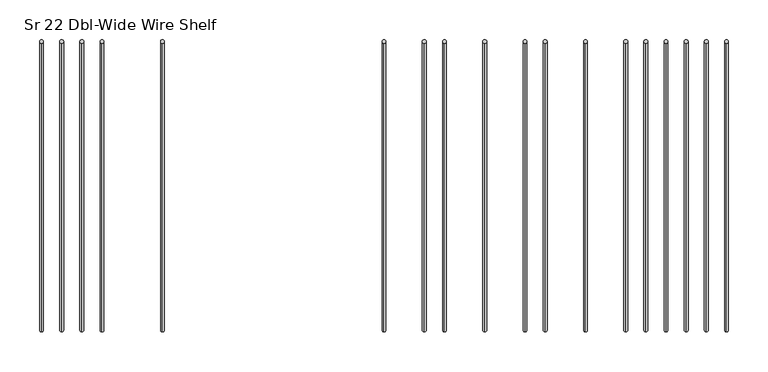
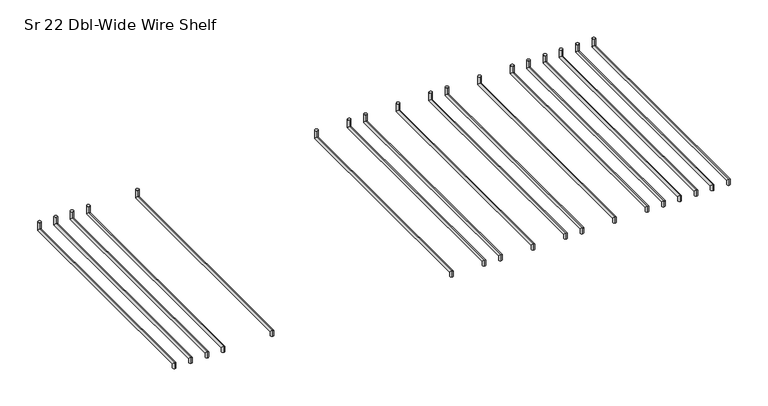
"""IFC4 building model written with IfcOpenShell, lengths in millimetres: furniture geometry, HermanMiller_Carts_CT521_CartShelf : Sr 22 Dbl-Wide Wire Shelf."""

from ifc_helpers import new_model, si_unit, frame, origin, place, context, project, spatial, circle_curve, ellipse_curve, source, transform, mapped, element, save
from ifc_brep_helpers import plane_surface, cylinder_surface, advanced_brep


def sr_22_dbl_wide_wire_shelf_6467912a(model_context):
    return source(origin(), model_context, "Body", "AdvancedBrep", [
        advanced_brep(
        [(561.7223083, -206.38135, 2453.2971), (561.7223083, -211.14385, 2453.2971), (561.7223083, -206.38135, 2458.0596), (561.7223083, -211.14385, 2462.8221), (561.7223083, 157.2983379, 2458.0596), (561.7223083, 152.5358379, 2462.8221), (561.7223083, 157.2983379, 2473.3377), (561.7223083, 152.5358379, 2473.3377)],
        [
            (0, 1, circle_curve(frame((561.7223083, -208.7626, 2453.2971), z_axis=(0.0, 0.0, -1.0), x_axis=(0.0, -1.0, 0.0)), 2.38125)),
            (1, 0, circle_curve(frame((561.7223083, -208.7626, 2453.2971), z_axis=(0.0, 0.0, -1.0), x_axis=(0.0, -1.0, 0.0)), 2.38125)),
            (0, 2),
            (2, 3, ellipse_curve(frame((561.7223083, -208.7626, 2460.44085), z_axis=(0.0, -0.7071067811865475, -0.7071067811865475), x_axis=(0.0, 0.7071067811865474, -0.7071067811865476)), 3.367596, 2.38125)),
            (3, 1),
            (3, 2, ellipse_curve(frame((561.7223083, -208.7626, 2460.44085), z_axis=(0.0, -0.7071067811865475, -0.7071067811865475), x_axis=(0.0, 0.7071067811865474, -0.7071067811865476)), 3.367596, 2.38125)),
            (2, 4),
            (4, 5, ellipse_curve(frame((561.7223083, 154.9170879, 2460.44085), z_axis=(0.0, -0.7071067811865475, -0.7071067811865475), x_axis=(0.0, -0.7071067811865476, 0.7071067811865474)), 3.367596, 2.38125)),
            (5, 3),
            (5, 4, ellipse_curve(frame((561.7223083, 154.9170879, 2460.44085), z_axis=(0.0, -0.7071067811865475, -0.7071067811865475), x_axis=(0.0, -0.7071067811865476, 0.7071067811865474)), 3.367596, 2.38125)),
            (6, 7, circle_curve(frame((561.7223083, 154.9170879, 2473.3377), z_axis=(0.0, 0.0, 1.0), x_axis=(0.0, -1.0, 0.0)), 2.38125)),
            (7, 6, circle_curve(frame((561.7223083, 154.9170879, 2473.3377), z_axis=(0.0, 0.0, 1.0), x_axis=(0.0, -1.0, 0.0)), 2.38125)),
            (4, 6),
            (7, 5),
        ],
        [
            plane_surface(frame((561.7223083, -208.7626, 2453.2971), z_axis=(0.0, 0.0, -1.0), x_axis=(1.0, 0.0, 0.0))),
            cylinder_surface(frame((561.7223083, -208.7626, 2453.2971), z_axis=(0.0, 0.0, -1.0), x_axis=(0.0, -1.0, 0.0)), 2.38125),
            cylinder_surface(frame((561.7223083, -208.7626, 2460.44085), z_axis=(0.0, -1.0, 0.0), x_axis=(0.0, 0.0, 1.0)), 2.38125),
            plane_surface(frame((561.7223083, 154.9170879, 2473.3377), z_axis=(0.0, 0.0, 1.0), x_axis=(1.0, 0.0, 0.0))),
            cylinder_surface(frame((561.7223083, 154.9170879, 2460.44085), z_axis=(0.0, 0.0, -1.0), x_axis=(0.0, -1.0, 0.0)), 2.38125),
        ],
        [
            (0, [[1, 2]]),
            (1, [[-1, 3, 4, 5]]),
            (1, [[-2, -5, 6, -3]]),
            (2, [[-4, 7, 8, 9]]),
            (2, [[-6, -9, 10, -7]]),
            (3, [[11, 12]]),
            (4, [[-8, 13, -12, 14]]),
            (4, [[-10, -14, -11, -13]]),
        ],
    ),
        advanced_brep(
        [(637.9223083, -206.38135, 2453.2971), (637.9223083, -211.14385, 2453.2971), (637.9223083, -206.38135, 2458.0596), (637.9223083, -211.14385, 2462.8221), (637.9223083, 157.2983379, 2458.0596), (637.9223083, 152.5358379, 2462.8221), (637.9223083, 157.2983379, 2473.3377), (637.9223083, 152.5358379, 2473.3377)],
        [
            (0, 1, circle_curve(frame((637.9223083, -208.7626, 2453.2971), z_axis=(0.0, 0.0, -1.0), x_axis=(0.0, -1.0, 0.0)), 2.38125)),
            (1, 0, circle_curve(frame((637.9223083, -208.7626, 2453.2971), z_axis=(0.0, 0.0, -1.0), x_axis=(0.0, -1.0, 0.0)), 2.38125)),
            (0, 2),
            (2, 3, ellipse_curve(frame((637.9223083, -208.7626, 2460.44085), z_axis=(0.0, -0.7071067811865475, -0.7071067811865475), x_axis=(0.0, 0.7071067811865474, -0.7071067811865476)), 3.367596, 2.38125)),
            (3, 1),
            (3, 2, ellipse_curve(frame((637.9223083, -208.7626, 2460.44085), z_axis=(0.0, -0.7071067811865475, -0.7071067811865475), x_axis=(0.0, 0.7071067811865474, -0.7071067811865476)), 3.367596, 2.38125)),
            (2, 4),
            (4, 5, ellipse_curve(frame((637.9223083, 154.9170879, 2460.44085), z_axis=(0.0, -0.7071067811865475, -0.7071067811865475), x_axis=(0.0, -0.7071067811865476, 0.7071067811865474)), 3.367596, 2.38125)),
            (5, 3),
            (5, 4, ellipse_curve(frame((637.9223083, 154.9170879, 2460.44085), z_axis=(0.0, -0.7071067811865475, -0.7071067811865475), x_axis=(0.0, -0.7071067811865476, 0.7071067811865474)), 3.367596, 2.38125)),
            (6, 7, circle_curve(frame((637.9223083, 154.9170879, 2473.3377), z_axis=(0.0, 0.0, 1.0), x_axis=(0.0, -1.0, 0.0)), 2.38125)),
            (7, 6, circle_curve(frame((637.9223083, 154.9170879, 2473.3377), z_axis=(0.0, 0.0, 1.0), x_axis=(0.0, -1.0, 0.0)), 2.38125)),
            (4, 6),
            (7, 5),
        ],
        [
            plane_surface(frame((637.9223083, -208.7626, 2453.2971), z_axis=(0.0, 0.0, -1.0), x_axis=(1.0, 0.0, 0.0))),
            cylinder_surface(frame((637.9223083, -208.7626, 2453.2971), z_axis=(0.0, 0.0, -1.0), x_axis=(0.0, -1.0, 0.0)), 2.38125),
            cylinder_surface(frame((637.9223083, -208.7626, 2460.44085), z_axis=(0.0, -1.0, 0.0), x_axis=(0.0, 0.0, 1.0)), 2.38125),
            plane_surface(frame((637.9223083, 154.9170879, 2473.3377), z_axis=(0.0, 0.0, 1.0), x_axis=(1.0, 0.0, 0.0))),
            cylinder_surface(frame((637.9223083, 154.9170879, 2460.44085), z_axis=(0.0, 0.0, -1.0), x_axis=(0.0, -1.0, 0.0)), 2.38125),
        ],
        [
            (0, [[1, 2]]),
            (1, [[-1, 3, 4, 5]]),
            (1, [[-2, -5, 6, -3]]),
            (2, [[-4, 7, 8, 9]]),
            (2, [[-6, -9, 10, -7]]),
            (3, [[11, 12]]),
            (4, [[-8, 13, -12, 14]]),
            (4, [[-10, -14, -11, -13]]),
        ],
    ),
        advanced_brep(
        [(688.7223083, -206.38135, 2453.2971), (688.7223083, -211.14385, 2453.2971), (688.7223083, -206.38135, 2458.0596), (688.7223083, -211.14385, 2462.8221), (688.7223083, 157.2983379, 2458.0596), (688.7223083, 152.5358379, 2462.8221), (688.7223083, 157.2983379, 2473.3377), (688.7223083, 152.5358379, 2473.3377)],
        [
            (0, 1, circle_curve(frame((688.7223083, -208.7626, 2453.2971), z_axis=(0.0, 0.0, -1.0), x_axis=(0.0, -1.0, 0.0)), 2.38125)),
            (1, 0, circle_curve(frame((688.7223083, -208.7626, 2453.2971), z_axis=(0.0, 0.0, -1.0), x_axis=(0.0, -1.0, 0.0)), 2.38125)),
            (0, 2),
            (2, 3, ellipse_curve(frame((688.7223083, -208.7626, 2460.44085), z_axis=(0.0, -0.7071067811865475, -0.7071067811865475), x_axis=(0.0, 0.7071067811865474, -0.7071067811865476)), 3.367596, 2.38125)),
            (3, 1),
            (3, 2, ellipse_curve(frame((688.7223083, -208.7626, 2460.44085), z_axis=(0.0, -0.7071067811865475, -0.7071067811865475), x_axis=(0.0, 0.7071067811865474, -0.7071067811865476)), 3.367596, 2.38125)),
            (2, 4),
            (4, 5, ellipse_curve(frame((688.7223083, 154.9170879, 2460.44085), z_axis=(0.0, -0.7071067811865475, -0.7071067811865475), x_axis=(0.0, -0.7071067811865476, 0.7071067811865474)), 3.367596, 2.38125)),
            (5, 3),
            (5, 4, ellipse_curve(frame((688.7223083, 154.9170879, 2460.44085), z_axis=(0.0, -0.7071067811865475, -0.7071067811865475), x_axis=(0.0, -0.7071067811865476, 0.7071067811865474)), 3.367596, 2.38125)),
            (6, 7, circle_curve(frame((688.7223083, 154.9170879, 2473.3377), z_axis=(0.0, 0.0, 1.0), x_axis=(0.0, -1.0, 0.0)), 2.38125)),
            (7, 6, circle_curve(frame((688.7223083, 154.9170879, 2473.3377), z_axis=(0.0, 0.0, 1.0), x_axis=(0.0, -1.0, 0.0)), 2.38125)),
            (4, 6),
            (7, 5),
        ],
        [
            plane_surface(frame((688.7223083, -208.7626, 2453.2971), z_axis=(0.0, 0.0, -1.0), x_axis=(1.0, 0.0, 0.0))),
            cylinder_surface(frame((688.7223083, -208.7626, 2453.2971), z_axis=(0.0, 0.0, -1.0), x_axis=(0.0, -1.0, 0.0)), 2.38125),
            cylinder_surface(frame((688.7223083, -208.7626, 2460.44085), z_axis=(0.0, -1.0, 0.0), x_axis=(0.0, 0.0, 1.0)), 2.38125),
            plane_surface(frame((688.7223083, 154.9170879, 2473.3377), z_axis=(0.0, 0.0, 1.0), x_axis=(1.0, 0.0, 0.0))),
            cylinder_surface(frame((688.7223083, 154.9170879, 2460.44085), z_axis=(0.0, 0.0, -1.0), x_axis=(0.0, -1.0, 0.0)), 2.38125),
        ],
        [
            (0, [[1, 2]]),
            (1, [[-1, 3, 4, 5]]),
            (1, [[-2, -5, 6, -3]]),
            (2, [[-4, 7, 8, 9]]),
            (2, [[-6, -9, 10, -7]]),
            (3, [[11, 12]]),
            (4, [[-8, 13, -12, 14]]),
            (4, [[-10, -14, -11, -13]]),
        ],
    ),
        advanced_brep(
        [(663.3223083, -206.38135, 2453.2971), (663.3223083, -211.14385, 2453.2971), (663.3223083, -206.38135, 2458.0596), (663.3223083, -211.14385, 2462.8221), (663.3223083, 157.2983379, 2458.0596), (663.3223083, 152.5358379, 2462.8221), (663.3223083, 157.2983379, 2473.3377), (663.3223083, 152.5358379, 2473.3377)],
        [
            (0, 1, circle_curve(frame((663.3223083, -208.7626, 2453.2971), z_axis=(0.0, 0.0, -1.0), x_axis=(0.0, -1.0, 0.0)), 2.38125)),
            (1, 0, circle_curve(frame((663.3223083, -208.7626, 2453.2971), z_axis=(0.0, 0.0, -1.0), x_axis=(0.0, -1.0, 0.0)), 2.38125)),
            (0, 2),
            (2, 3, ellipse_curve(frame((663.3223083, -208.7626, 2460.44085), z_axis=(0.0, -0.7071067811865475, -0.7071067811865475), x_axis=(0.0, 0.7071067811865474, -0.7071067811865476)), 3.367596, 2.38125)),
            (3, 1),
            (3, 2, ellipse_curve(frame((663.3223083, -208.7626, 2460.44085), z_axis=(0.0, -0.7071067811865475, -0.7071067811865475), x_axis=(0.0, 0.7071067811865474, -0.7071067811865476)), 3.367596, 2.38125)),
            (2, 4),
            (4, 5, ellipse_curve(frame((663.3223083, 154.9170879, 2460.44085), z_axis=(0.0, -0.7071067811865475, -0.7071067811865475), x_axis=(0.0, -0.7071067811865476, 0.7071067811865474)), 3.367596, 2.38125)),
            (5, 3),
            (5, 4, ellipse_curve(frame((663.3223083, 154.9170879, 2460.44085), z_axis=(0.0, -0.7071067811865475, -0.7071067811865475), x_axis=(0.0, -0.7071067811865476, 0.7071067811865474)), 3.367596, 2.38125)),
            (6, 7, circle_curve(frame((663.3223083, 154.9170879, 2473.3377), z_axis=(0.0, 0.0, 1.0), x_axis=(0.0, -1.0, 0.0)), 2.38125)),
            (7, 6, circle_curve(frame((663.3223083, 154.9170879, 2473.3377), z_axis=(0.0, 0.0, 1.0), x_axis=(0.0, -1.0, 0.0)), 2.38125)),
            (4, 6),
            (7, 5),
        ],
        [
            plane_surface(frame((663.3223083, -208.7626, 2453.2971), z_axis=(0.0, 0.0, -1.0), x_axis=(1.0, 0.0, 0.0))),
            cylinder_surface(frame((663.3223083, -208.7626, 2453.2971), z_axis=(0.0, 0.0, -1.0), x_axis=(0.0, -1.0, 0.0)), 2.38125),
            cylinder_surface(frame((663.3223083, -208.7626, 2460.44085), z_axis=(0.0, -1.0, 0.0), x_axis=(0.0, 0.0, 1.0)), 2.38125),
            plane_surface(frame((663.3223083, 154.9170879, 2473.3377), z_axis=(0.0, 0.0, 1.0), x_axis=(1.0, 0.0, 0.0))),
            cylinder_surface(frame((663.3223083, 154.9170879, 2460.44085), z_axis=(0.0, 0.0, -1.0), x_axis=(0.0, -1.0, 0.0)), 2.38125),
        ],
        [
            (0, [[1, 2]]),
            (1, [[-1, 3, 4, 5]]),
            (1, [[-2, -5, 6, -3]]),
            (2, [[-4, 7, 8, 9]]),
            (2, [[-6, -9, 10, -7]]),
            (3, [[11, 12]]),
            (4, [[-8, 13, -12, 14]]),
            (4, [[-10, -14, -11, -13]]),
        ],
    ),
        advanced_brep(
        [(612.5223083, -206.38135, 2453.2971), (612.5223083, -211.14385, 2453.2971), (612.5223083, -206.38135, 2458.0596), (612.5223083, -211.14385, 2462.8221), (612.5223083, 157.2983379, 2458.0596), (612.5223083, 152.5358379, 2462.8221), (612.5223083, 157.2983379, 2473.3377), (612.5223083, 152.5358379, 2473.3377)],
        [
            (0, 1, circle_curve(frame((612.5223083, -208.7626, 2453.2971), z_axis=(0.0, 0.0, -1.0), x_axis=(0.0, -1.0, 0.0)), 2.38125)),
            (1, 0, circle_curve(frame((612.5223083, -208.7626, 2453.2971), z_axis=(0.0, 0.0, -1.0), x_axis=(0.0, -1.0, 0.0)), 2.38125)),
            (0, 2),
            (2, 3, ellipse_curve(frame((612.5223083, -208.7626, 2460.44085), z_axis=(0.0, -0.7071067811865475, -0.7071067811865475), x_axis=(0.0, 0.7071067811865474, -0.7071067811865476)), 3.367596, 2.38125)),
            (3, 1),
            (3, 2, ellipse_curve(frame((612.5223083, -208.7626, 2460.44085), z_axis=(0.0, -0.7071067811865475, -0.7071067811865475), x_axis=(0.0, 0.7071067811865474, -0.7071067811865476)), 3.367596, 2.38125)),
            (2, 4),
            (4, 5, ellipse_curve(frame((612.5223083, 154.9170879, 2460.44085), z_axis=(0.0, -0.7071067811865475, -0.7071067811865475), x_axis=(0.0, -0.7071067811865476, 0.7071067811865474)), 3.367596, 2.38125)),
            (5, 3),
            (5, 4, ellipse_curve(frame((612.5223083, 154.9170879, 2460.44085), z_axis=(0.0, -0.7071067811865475, -0.7071067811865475), x_axis=(0.0, -0.7071067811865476, 0.7071067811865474)), 3.367596, 2.38125)),
            (6, 7, circle_curve(frame((612.5223083, 154.9170879, 2473.3377), z_axis=(0.0, 0.0, 1.0), x_axis=(0.0, -1.0, 0.0)), 2.38125)),
            (7, 6, circle_curve(frame((612.5223083, 154.9170879, 2473.3377), z_axis=(0.0, 0.0, 1.0), x_axis=(0.0, -1.0, 0.0)), 2.38125)),
            (4, 6),
            (7, 5),
        ],
        [
            plane_surface(frame((612.5223083, -208.7626, 2453.2971), z_axis=(0.0, 0.0, -1.0), x_axis=(1.0, 0.0, 0.0))),
            cylinder_surface(frame((612.5223083, -208.7626, 2453.2971), z_axis=(0.0, 0.0, -1.0), x_axis=(0.0, -1.0, 0.0)), 2.38125),
            cylinder_surface(frame((612.5223083, -208.7626, 2460.44085), z_axis=(0.0, -1.0, 0.0), x_axis=(0.0, 0.0, 1.0)), 2.38125),
            plane_surface(frame((612.5223083, 154.9170879, 2473.3377), z_axis=(0.0, 0.0, 1.0), x_axis=(1.0, 0.0, 0.0))),
            cylinder_surface(frame((612.5223083, 154.9170879, 2460.44085), z_axis=(0.0, 0.0, -1.0), x_axis=(0.0, -1.0, 0.0)), 2.38125),
        ],
        [
            (0, [[1, 2]]),
            (1, [[-1, 3, 4, 5]]),
            (1, [[-2, -5, 6, -3]]),
            (2, [[-4, 7, 8, 9]]),
            (2, [[-6, -9, 10, -7]]),
            (3, [[11, 12]]),
            (4, [[-8, 13, -12, 14]]),
            (4, [[-10, -14, -11, -13]]),
        ],
    ),
        advanced_brep(
        [(587.1223083, -206.38135, 2453.2971), (587.1223083, -211.14385, 2453.2971), (587.1223083, -206.38135, 2458.0596), (587.1223083, -211.14385, 2462.8221), (587.1223083, 157.2983379, 2458.0596), (587.1223083, 152.5358379, 2462.8221), (587.1223083, 157.2983379, 2473.3377), (587.1223083, 152.5358379, 2473.3377)],
        [
            (0, 1, circle_curve(frame((587.1223083, -208.7626, 2453.2971), z_axis=(0.0, 0.0, -1.0), x_axis=(0.0, -1.0, 0.0)), 2.38125)),
            (1, 0, circle_curve(frame((587.1223083, -208.7626, 2453.2971), z_axis=(0.0, 0.0, -1.0), x_axis=(0.0, -1.0, 0.0)), 2.38125)),
            (0, 2),
            (2, 3, ellipse_curve(frame((587.1223083, -208.7626, 2460.44085), z_axis=(0.0, -0.7071067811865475, -0.7071067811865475), x_axis=(0.0, 0.7071067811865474, -0.7071067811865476)), 3.367596, 2.38125)),
            (3, 1),
            (3, 2, ellipse_curve(frame((587.1223083, -208.7626, 2460.44085), z_axis=(0.0, -0.7071067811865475, -0.7071067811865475), x_axis=(0.0, 0.7071067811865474, -0.7071067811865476)), 3.367596, 2.38125)),
            (2, 4),
            (4, 5, ellipse_curve(frame((587.1223083, 154.9170879, 2460.44085), z_axis=(0.0, -0.7071067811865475, -0.7071067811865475), x_axis=(0.0, -0.7071067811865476, 0.7071067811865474)), 3.367596, 2.38125)),
            (5, 3),
            (5, 4, ellipse_curve(frame((587.1223083, 154.9170879, 2460.44085), z_axis=(0.0, -0.7071067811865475, -0.7071067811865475), x_axis=(0.0, -0.7071067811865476, 0.7071067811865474)), 3.367596, 2.38125)),
            (6, 7, circle_curve(frame((587.1223083, 154.9170879, 2473.3377), z_axis=(0.0, 0.0, 1.0), x_axis=(0.0, -1.0, 0.0)), 2.38125)),
            (7, 6, circle_curve(frame((587.1223083, 154.9170879, 2473.3377), z_axis=(0.0, 0.0, 1.0), x_axis=(0.0, -1.0, 0.0)), 2.38125)),
            (4, 6),
            (7, 5),
        ],
        [
            plane_surface(frame((587.1223083, -208.7626, 2453.2971), z_axis=(0.0, 0.0, -1.0), x_axis=(1.0, 0.0, 0.0))),
            cylinder_surface(frame((587.1223083, -208.7626, 2453.2971), z_axis=(0.0, 0.0, -1.0), x_axis=(0.0, -1.0, 0.0)), 2.38125),
            cylinder_surface(frame((587.1223083, -208.7626, 2460.44085), z_axis=(0.0, -1.0, 0.0), x_axis=(0.0, 0.0, 1.0)), 2.38125),
            plane_surface(frame((587.1223083, 154.9170879, 2473.3377), z_axis=(0.0, 0.0, 1.0), x_axis=(1.0, 0.0, 0.0))),
            cylinder_surface(frame((587.1223083, 154.9170879, 2460.44085), z_axis=(0.0, 0.0, -1.0), x_axis=(0.0, -1.0, 0.0)), 2.38125),
        ],
        [
            (0, [[1, 2]]),
            (1, [[-1, 3, 4, 5]]),
            (1, [[-2, -5, 6, -3]]),
            (2, [[-4, 7, 8, 9]]),
            (2, [[-6, -9, 10, -7]]),
            (3, [[11, 12]]),
            (4, [[-8, 13, -12, 14]]),
            (4, [[-10, -14, -11, -13]]),
        ],
    ),
        advanced_brep(
        [(510.9223083, -206.38135, 2453.2971), (510.9223083, -211.14385, 2453.2971), (510.9223083, -206.38135, 2458.0596), (510.9223083, -211.14385, 2462.8221), (510.9223083, 157.2983379, 2458.0596), (510.9223083, 152.5358379, 2462.8221), (510.9223083, 157.2983379, 2473.3377), (510.9223083, 152.5358379, 2473.3377)],
        [
            (0, 1, circle_curve(frame((510.9223083, -208.7626, 2453.2971), z_axis=(0.0, 0.0, -1.0), x_axis=(0.0, -1.0, 0.0)), 2.38125)),
            (1, 0, circle_curve(frame((510.9223083, -208.7626, 2453.2971), z_axis=(0.0, 0.0, -1.0), x_axis=(0.0, -1.0, 0.0)), 2.38125)),
            (0, 2),
            (2, 3, ellipse_curve(frame((510.9223083, -208.7626, 2460.44085), z_axis=(0.0, -0.7071067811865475, -0.7071067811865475), x_axis=(0.0, 0.7071067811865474, -0.7071067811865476)), 3.367596, 2.38125)),
            (3, 1),
            (3, 2, ellipse_curve(frame((510.9223083, -208.7626, 2460.44085), z_axis=(0.0, -0.7071067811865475, -0.7071067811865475), x_axis=(0.0, 0.7071067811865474, -0.7071067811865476)), 3.367596, 2.38125)),
            (2, 4),
            (4, 5, ellipse_curve(frame((510.9223083, 154.9170879, 2460.44085), z_axis=(0.0, -0.7071067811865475, -0.7071067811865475), x_axis=(0.0, -0.7071067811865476, 0.7071067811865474)), 3.367596, 2.38125)),
            (5, 3),
            (5, 4, ellipse_curve(frame((510.9223083, 154.9170879, 2460.44085), z_axis=(0.0, -0.7071067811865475, -0.7071067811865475), x_axis=(0.0, -0.7071067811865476, 0.7071067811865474)), 3.367596, 2.38125)),
            (6, 7, circle_curve(frame((510.9223083, 154.9170879, 2473.3377), z_axis=(0.0, 0.0, 1.0), x_axis=(0.0, -1.0, 0.0)), 2.38125)),
            (7, 6, circle_curve(frame((510.9223083, 154.9170879, 2473.3377), z_axis=(0.0, 0.0, 1.0), x_axis=(0.0, -1.0, 0.0)), 2.38125)),
            (4, 6),
            (7, 5),
        ],
        [
            plane_surface(frame((510.9223083, -208.7626, 2453.2971), z_axis=(0.0, 0.0, -1.0), x_axis=(1.0, 0.0, 0.0))),
            cylinder_surface(frame((510.9223083, -208.7626, 2453.2971), z_axis=(0.0, 0.0, -1.0), x_axis=(0.0, -1.0, 0.0)), 2.38125),
            cylinder_surface(frame((510.9223083, -208.7626, 2460.44085), z_axis=(0.0, -1.0, 0.0), x_axis=(0.0, 0.0, 1.0)), 2.38125),
            plane_surface(frame((510.9223083, 154.9170879, 2473.3377), z_axis=(0.0, 0.0, 1.0), x_axis=(1.0, 0.0, 0.0))),
            cylinder_surface(frame((510.9223083, 154.9170879, 2460.44085), z_axis=(0.0, 0.0, -1.0), x_axis=(0.0, -1.0, 0.0)), 2.38125),
        ],
        [
            (0, [[1, 2]]),
            (1, [[-1, 3, 4, 5]]),
            (1, [[-2, -5, 6, -3]]),
            (2, [[-4, 7, 8, 9]]),
            (2, [[-6, -9, 10, -7]]),
            (3, [[11, 12]]),
            (4, [[-8, 13, -12, 14]]),
            (4, [[-10, -14, -11, -13]]),
        ],
    ),
        advanced_brep(
        [(460.1223083, -206.38135, 2453.2971), (460.1223083, -211.14385, 2453.2971), (460.1223083, -206.38135, 2458.0596), (460.1223083, -211.14385, 2462.8221), (460.1223083, 157.2983379, 2458.0596), (460.1223083, 152.5358379, 2462.8221), (460.1223083, 157.2983379, 2473.3377), (460.1223083, 152.5358379, 2473.3377)],
        [
            (0, 1, circle_curve(frame((460.1223083, -208.7626, 2453.2971), z_axis=(0.0, 0.0, -1.0), x_axis=(0.0, -1.0, 0.0)), 2.38125)),
            (1, 0, circle_curve(frame((460.1223083, -208.7626, 2453.2971), z_axis=(0.0, 0.0, -1.0), x_axis=(0.0, -1.0, 0.0)), 2.38125)),
            (0, 2),
            (2, 3, ellipse_curve(frame((460.1223083, -208.7626, 2460.44085), z_axis=(0.0, -0.7071067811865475, -0.7071067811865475), x_axis=(0.0, 0.7071067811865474, -0.7071067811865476)), 3.367596, 2.38125)),
            (3, 1),
            (3, 2, ellipse_curve(frame((460.1223083, -208.7626, 2460.44085), z_axis=(0.0, -0.7071067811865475, -0.7071067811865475), x_axis=(0.0, 0.7071067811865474, -0.7071067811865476)), 3.367596, 2.38125)),
            (2, 4),
            (4, 5, ellipse_curve(frame((460.1223083, 154.9170879, 2460.44085), z_axis=(0.0, -0.7071067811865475, -0.7071067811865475), x_axis=(0.0, -0.7071067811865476, 0.7071067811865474)), 3.367596, 2.38125)),
            (5, 3),
            (5, 4, ellipse_curve(frame((460.1223083, 154.9170879, 2460.44085), z_axis=(0.0, -0.7071067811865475, -0.7071067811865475), x_axis=(0.0, -0.7071067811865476, 0.7071067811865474)), 3.367596, 2.38125)),
            (6, 7, circle_curve(frame((460.1223083, 154.9170879, 2473.3377), z_axis=(0.0, 0.0, 1.0), x_axis=(0.0, -1.0, 0.0)), 2.38125)),
            (7, 6, circle_curve(frame((460.1223083, 154.9170879, 2473.3377), z_axis=(0.0, 0.0, 1.0), x_axis=(0.0, -1.0, 0.0)), 2.38125)),
            (4, 6),
            (7, 5),
        ],
        [
            plane_surface(frame((460.1223083, -208.7626, 2453.2971), z_axis=(0.0, 0.0, -1.0), x_axis=(1.0, 0.0, 0.0))),
            cylinder_surface(frame((460.1223083, -208.7626, 2453.2971), z_axis=(0.0, 0.0, -1.0), x_axis=(0.0, -1.0, 0.0)), 2.38125),
            cylinder_surface(frame((460.1223083, -208.7626, 2460.44085), z_axis=(0.0, -1.0, 0.0), x_axis=(0.0, 0.0, 1.0)), 2.38125),
            plane_surface(frame((460.1223083, 154.9170879, 2473.3377), z_axis=(0.0, 0.0, 1.0), x_axis=(1.0, 0.0, 0.0))),
            cylinder_surface(frame((460.1223083, 154.9170879, 2460.44085), z_axis=(0.0, 0.0, -1.0), x_axis=(0.0, -1.0, 0.0)), 2.38125),
        ],
        [
            (0, [[1, 2]]),
            (1, [[-1, 3, 4, 5]]),
            (1, [[-2, -5, 6, -3]]),
            (2, [[-4, 7, 8, 9]]),
            (2, [[-6, -9, 10, -7]]),
            (3, [[11, 12]]),
            (4, [[-8, 13, -12, 14]]),
            (4, [[-10, -14, -11, -13]]),
        ],
    ),
        advanced_brep(
        [(434.7223083, -206.38135, 2453.2971), (434.7223083, -211.14385, 2453.2971), (434.7223083, -206.38135, 2458.0596), (434.7223083, -211.14385, 2462.8221), (434.7223083, 157.2983379, 2458.0596), (434.7223083, 152.5358379, 2462.8221), (434.7223083, 157.2983379, 2473.3377), (434.7223083, 152.5358379, 2473.3377)],
        [
            (0, 1, circle_curve(frame((434.7223083, -208.7626, 2453.2971), z_axis=(0.0, 0.0, -1.0), x_axis=(0.0, -1.0, 0.0)), 2.38125)),
            (1, 0, circle_curve(frame((434.7223083, -208.7626, 2453.2971), z_axis=(0.0, 0.0, -1.0), x_axis=(0.0, -1.0, 0.0)), 2.38125)),
            (0, 2),
            (2, 3, ellipse_curve(frame((434.7223083, -208.7626, 2460.44085), z_axis=(0.0, -0.7071067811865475, -0.7071067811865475), x_axis=(0.0, 0.7071067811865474, -0.7071067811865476)), 3.367596, 2.38125)),
            (3, 1),
            (3, 2, ellipse_curve(frame((434.7223083, -208.7626, 2460.44085), z_axis=(0.0, -0.7071067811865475, -0.7071067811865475), x_axis=(0.0, 0.7071067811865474, -0.7071067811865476)), 3.367596, 2.38125)),
            (2, 4),
            (4, 5, ellipse_curve(frame((434.7223083, 154.9170879, 2460.44085), z_axis=(0.0, -0.7071067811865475, -0.7071067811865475), x_axis=(0.0, -0.7071067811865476, 0.7071067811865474)), 3.367596, 2.38125)),
            (5, 3),
            (5, 4, ellipse_curve(frame((434.7223083, 154.9170879, 2460.44085), z_axis=(0.0, -0.7071067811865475, -0.7071067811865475), x_axis=(0.0, -0.7071067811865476, 0.7071067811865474)), 3.367596, 2.38125)),
            (6, 7, circle_curve(frame((434.7223083, 154.9170879, 2473.3377), z_axis=(0.0, 0.0, 1.0), x_axis=(0.0, -1.0, 0.0)), 2.38125)),
            (7, 6, circle_curve(frame((434.7223083, 154.9170879, 2473.3377), z_axis=(0.0, 0.0, 1.0), x_axis=(0.0, -1.0, 0.0)), 2.38125)),
            (4, 6),
            (7, 5),
        ],
        [
            plane_surface(frame((434.7223083, -208.7626, 2453.2971), z_axis=(0.0, 0.0, -1.0), x_axis=(1.0, 0.0, 0.0))),
            cylinder_surface(frame((434.7223083, -208.7626, 2453.2971), z_axis=(0.0, 0.0, -1.0), x_axis=(0.0, -1.0, 0.0)), 2.38125),
            cylinder_surface(frame((434.7223083, -208.7626, 2460.44085), z_axis=(0.0, -1.0, 0.0), x_axis=(0.0, 0.0, 1.0)), 2.38125),
            plane_surface(frame((434.7223083, 154.9170879, 2473.3377), z_axis=(0.0, 0.0, 1.0), x_axis=(1.0, 0.0, 0.0))),
            cylinder_surface(frame((434.7223083, 154.9170879, 2460.44085), z_axis=(0.0, 0.0, -1.0), x_axis=(0.0, -1.0, 0.0)), 2.38125),
        ],
        [
            (0, [[1, 2]]),
            (1, [[-1, 3, 4, 5]]),
            (1, [[-2, -5, 6, -3]]),
            (2, [[-4, 7, 8, 9]]),
            (2, [[-6, -9, 10, -7]]),
            (3, [[11, 12]]),
            (4, [[-8, 13, -12, 14]]),
            (4, [[-10, -14, -11, -13]]),
        ],
    ),
        advanced_brep(
        [(-98.6776917, -206.38135, 2453.2971), (-98.6776917, -211.14385, 2453.2971), (-98.6776917, -206.38135, 2458.0596), (-98.6776917, -211.14385, 2462.8221), (-98.6776917, 157.2983379, 2458.0596), (-98.6776917, 152.5358379, 2462.8221), (-98.6776917, 157.2983379, 2473.3377), (-98.6776917, 152.5358379, 2473.3377)],
        [
            (0, 1, circle_curve(frame((-98.6776917, -208.7626, 2453.2971), z_axis=(0.0, 0.0, -1.0), x_axis=(0.0, -1.0, 0.0)), 2.38125)),
            (1, 0, circle_curve(frame((-98.6776917, -208.7626, 2453.2971), z_axis=(0.0, 0.0, -1.0), x_axis=(0.0, -1.0, 0.0)), 2.38125)),
            (0, 2),
            (2, 3, ellipse_curve(frame((-98.6776917, -208.7626, 2460.44085), z_axis=(0.0, -0.7071067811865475, -0.7071067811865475), x_axis=(0.0, 0.7071067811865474, -0.7071067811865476)), 3.367596, 2.38125)),
            (3, 1),
            (3, 2, ellipse_curve(frame((-98.6776917, -208.7626, 2460.44085), z_axis=(0.0, -0.7071067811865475, -0.7071067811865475), x_axis=(0.0, 0.7071067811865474, -0.7071067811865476)), 3.367596, 2.38125)),
            (2, 4),
            (4, 5, ellipse_curve(frame((-98.6776917, 154.9170879, 2460.44085), z_axis=(0.0, -0.7071067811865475, -0.7071067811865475), x_axis=(0.0, -0.7071067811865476, 0.7071067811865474)), 3.367596, 2.38125)),
            (5, 3),
            (5, 4, ellipse_curve(frame((-98.6776917, 154.9170879, 2460.44085), z_axis=(0.0, -0.7071067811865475, -0.7071067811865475), x_axis=(0.0, -0.7071067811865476, 0.7071067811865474)), 3.367596, 2.38125)),
            (6, 7, circle_curve(frame((-98.6776917, 154.9170879, 2473.3377), z_axis=(0.0, 0.0, 1.0), x_axis=(0.0, -1.0, 0.0)), 2.38125)),
            (7, 6, circle_curve(frame((-98.6776917, 154.9170879, 2473.3377), z_axis=(0.0, 0.0, 1.0), x_axis=(0.0, -1.0, 0.0)), 2.38125)),
            (4, 6),
            (7, 5),
        ],
        [
            plane_surface(frame((-98.6776917, -208.7626, 2453.2971), z_axis=(0.0, 0.0, -1.0), x_axis=(1.0, 0.0, 0.0))),
            cylinder_surface(frame((-98.6776917, -208.7626, 2453.2971), z_axis=(0.0, 0.0, -1.0), x_axis=(0.0, -1.0, 0.0)), 2.38125),
            cylinder_surface(frame((-98.6776917, -208.7626, 2460.44085), z_axis=(0.0, -1.0, 0.0), x_axis=(0.0, 0.0, 1.0)), 2.38125),
            plane_surface(frame((-98.6776917, 154.9170879, 2473.3377), z_axis=(0.0, 0.0, 1.0), x_axis=(1.0, 0.0, 0.0))),
            cylinder_surface(frame((-98.6776917, 154.9170879, 2460.44085), z_axis=(0.0, 0.0, -1.0), x_axis=(0.0, -1.0, 0.0)), 2.38125),
        ],
        [
            (0, [[1, 2]]),
            (1, [[-1, 3, 4, 5]]),
            (1, [[-2, -5, 6, -3]]),
            (2, [[-4, 7, 8, 9]]),
            (2, [[-6, -9, 10, -7]]),
            (3, [[11, 12]]),
            (4, [[-8, 13, -12, 14]]),
            (4, [[-10, -14, -11, -13]]),
        ],
    ),
        advanced_brep(
        [(-149.4776917, -206.38135, 2453.2971), (-149.4776917, -211.14385, 2453.2971), (-149.4776917, -206.38135, 2458.0596), (-149.4776917, -211.14385, 2462.8221), (-149.4776917, 157.2983379, 2458.0596), (-149.4776917, 152.5358379, 2462.8221), (-149.4776917, 157.2983379, 2473.3377), (-149.4776917, 152.5358379, 2473.3377)],
        [
            (0, 1, circle_curve(frame((-149.4776917, -208.7626, 2453.2971), z_axis=(0.0, 0.0, -1.0), x_axis=(0.0, -1.0, 0.0)), 2.38125)),
            (1, 0, circle_curve(frame((-149.4776917, -208.7626, 2453.2971), z_axis=(0.0, 0.0, -1.0), x_axis=(0.0, -1.0, 0.0)), 2.38125)),
            (0, 2),
            (2, 3, ellipse_curve(frame((-149.4776917, -208.7626, 2460.44085), z_axis=(0.0, -0.7071067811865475, -0.7071067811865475), x_axis=(0.0, 0.7071067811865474, -0.7071067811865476)), 3.367596, 2.38125)),
            (3, 1),
            (3, 2, ellipse_curve(frame((-149.4776917, -208.7626, 2460.44085), z_axis=(0.0, -0.7071067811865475, -0.7071067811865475), x_axis=(0.0, 0.7071067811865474, -0.7071067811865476)), 3.367596, 2.38125)),
            (2, 4),
            (4, 5, ellipse_curve(frame((-149.4776917, 154.9170879, 2460.44085), z_axis=(0.0, -0.7071067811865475, -0.7071067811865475), x_axis=(0.0, -0.7071067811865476, 0.7071067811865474)), 3.367596, 2.38125)),
            (5, 3),
            (5, 4, ellipse_curve(frame((-149.4776917, 154.9170879, 2460.44085), z_axis=(0.0, -0.7071067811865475, -0.7071067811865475), x_axis=(0.0, -0.7071067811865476, 0.7071067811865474)), 3.367596, 2.38125)),
            (6, 7, circle_curve(frame((-149.4776917, 154.9170879, 2473.3377), z_axis=(0.0, 0.0, 1.0), x_axis=(0.0, -1.0, 0.0)), 2.38125)),
            (7, 6, circle_curve(frame((-149.4776917, 154.9170879, 2473.3377), z_axis=(0.0, 0.0, 1.0), x_axis=(0.0, -1.0, 0.0)), 2.38125)),
            (4, 6),
            (7, 5),
        ],
        [
            plane_surface(frame((-149.4776917, -208.7626, 2453.2971), z_axis=(0.0, 0.0, -1.0), x_axis=(1.0, 0.0, 0.0))),
            cylinder_surface(frame((-149.4776917, -208.7626, 2453.2971), z_axis=(0.0, 0.0, -1.0), x_axis=(0.0, -1.0, 0.0)), 2.38125),
            cylinder_surface(frame((-149.4776917, -208.7626, 2460.44085), z_axis=(0.0, -1.0, 0.0), x_axis=(0.0, 0.0, 1.0)), 2.38125),
            plane_surface(frame((-149.4776917, 154.9170879, 2473.3377), z_axis=(0.0, 0.0, 1.0), x_axis=(1.0, 0.0, 0.0))),
            cylinder_surface(frame((-149.4776917, 154.9170879, 2460.44085), z_axis=(0.0, 0.0, -1.0), x_axis=(0.0, -1.0, 0.0)), 2.38125),
        ],
        [
            (0, [[1, 2]]),
            (1, [[-1, 3, 4, 5]]),
            (1, [[-2, -5, 6, -3]]),
            (2, [[-4, 7, 8, 9]]),
            (2, [[-6, -9, 10, -7]]),
            (3, [[11, 12]]),
            (4, [[-8, 13, -12, 14]]),
            (4, [[-10, -14, -11, -13]]),
        ],
    ),
        advanced_brep(
        [(-174.8776917, -206.38135, 2453.2971), (-174.8776917, -211.14385, 2453.2971), (-174.8776917, -206.38135, 2458.0596), (-174.8776917, -211.14385, 2462.8221), (-174.8776917, 157.2983379, 2458.0596), (-174.8776917, 152.5358379, 2462.8221), (-174.8776917, 157.2983379, 2473.3377), (-174.8776917, 152.5358379, 2473.3377)],
        [
            (0, 1, circle_curve(frame((-174.8776917, -208.7626, 2453.2971), z_axis=(0.0, 0.0, -1.0), x_axis=(0.0, -1.0, 0.0)), 2.38125)),
            (1, 0, circle_curve(frame((-174.8776917, -208.7626, 2453.2971), z_axis=(0.0, 0.0, -1.0), x_axis=(0.0, -1.0, 0.0)), 2.38125)),
            (0, 2),
            (2, 3, ellipse_curve(frame((-174.8776917, -208.7626, 2460.44085), z_axis=(0.0, -0.7071067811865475, -0.7071067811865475), x_axis=(0.0, 0.7071067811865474, -0.7071067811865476)), 3.367596, 2.38125)),
            (3, 1),
            (3, 2, ellipse_curve(frame((-174.8776917, -208.7626, 2460.44085), z_axis=(0.0, -0.7071067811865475, -0.7071067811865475), x_axis=(0.0, 0.7071067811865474, -0.7071067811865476)), 3.367596, 2.38125)),
            (2, 4),
            (4, 5, ellipse_curve(frame((-174.8776917, 154.9170879, 2460.44085), z_axis=(0.0, -0.7071067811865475, -0.7071067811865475), x_axis=(0.0, -0.7071067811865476, 0.7071067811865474)), 3.367596, 2.38125)),
            (5, 3),
            (5, 4, ellipse_curve(frame((-174.8776917, 154.9170879, 2460.44085), z_axis=(0.0, -0.7071067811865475, -0.7071067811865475), x_axis=(0.0, -0.7071067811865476, 0.7071067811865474)), 3.367596, 2.38125)),
            (6, 7, circle_curve(frame((-174.8776917, 154.9170879, 2473.3377), z_axis=(0.0, 0.0, 1.0), x_axis=(0.0, -1.0, 0.0)), 2.38125)),
            (7, 6, circle_curve(frame((-174.8776917, 154.9170879, 2473.3377), z_axis=(0.0, 0.0, 1.0), x_axis=(0.0, -1.0, 0.0)), 2.38125)),
            (4, 6),
            (7, 5),
        ],
        [
            plane_surface(frame((-174.8776917, -208.7626, 2453.2971), z_axis=(0.0, 0.0, -1.0), x_axis=(1.0, 0.0, 0.0))),
            cylinder_surface(frame((-174.8776917, -208.7626, 2453.2971), z_axis=(0.0, 0.0, -1.0), x_axis=(0.0, -1.0, 0.0)), 2.38125),
            cylinder_surface(frame((-174.8776917, -208.7626, 2460.44085), z_axis=(0.0, -1.0, 0.0), x_axis=(0.0, 0.0, 1.0)), 2.38125),
            plane_surface(frame((-174.8776917, 154.9170879, 2473.3377), z_axis=(0.0, 0.0, 1.0), x_axis=(1.0, 0.0, 0.0))),
            cylinder_surface(frame((-174.8776917, 154.9170879, 2460.44085), z_axis=(0.0, 0.0, -1.0), x_axis=(0.0, -1.0, 0.0)), 2.38125),
        ],
        [
            (0, [[1, 2]]),
            (1, [[-1, 3, 4, 5]]),
            (1, [[-2, -5, 6, -3]]),
            (2, [[-4, 7, 8, 9]]),
            (2, [[-6, -9, 10, -7]]),
            (3, [[11, 12]]),
            (4, [[-8, 13, -12, 14]]),
            (4, [[-10, -14, -11, -13]]),
        ],
    ),
        advanced_brep(
        [(-124.0776917, -206.38135, 2453.2971), (-124.0776917, -211.14385, 2453.2971), (-124.0776917, -206.38135, 2458.0596), (-124.0776917, -211.14385, 2462.8221), (-124.0776917, 157.2983379, 2458.0596), (-124.0776917, 152.5358379, 2462.8221), (-124.0776917, 157.2983379, 2473.3377), (-124.0776917, 152.5358379, 2473.3377)],
        [
            (0, 1, circle_curve(frame((-124.0776917, -208.7626, 2453.2971), z_axis=(0.0, 0.0, -1.0), x_axis=(0.0, -1.0, 0.0)), 2.38125)),
            (1, 0, circle_curve(frame((-124.0776917, -208.7626, 2453.2971), z_axis=(0.0, 0.0, -1.0), x_axis=(0.0, -1.0, 0.0)), 2.38125)),
            (0, 2),
            (2, 3, ellipse_curve(frame((-124.0776917, -208.7626, 2460.44085), z_axis=(0.0, -0.7071067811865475, -0.7071067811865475), x_axis=(0.0, 0.7071067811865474, -0.7071067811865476)), 3.367596, 2.38125)),
            (3, 1),
            (3, 2, ellipse_curve(frame((-124.0776917, -208.7626, 2460.44085), z_axis=(0.0, -0.7071067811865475, -0.7071067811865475), x_axis=(0.0, 0.7071067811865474, -0.7071067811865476)), 3.367596, 2.38125)),
            (2, 4),
            (4, 5, ellipse_curve(frame((-124.0776917, 154.9170879, 2460.44085), z_axis=(0.0, -0.7071067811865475, -0.7071067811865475), x_axis=(0.0, -0.7071067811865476, 0.7071067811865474)), 3.367596, 2.38125)),
            (5, 3),
            (5, 4, ellipse_curve(frame((-124.0776917, 154.9170879, 2460.44085), z_axis=(0.0, -0.7071067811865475, -0.7071067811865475), x_axis=(0.0, -0.7071067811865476, 0.7071067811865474)), 3.367596, 2.38125)),
            (6, 7, circle_curve(frame((-124.0776917, 154.9170879, 2473.3377), z_axis=(0.0, 0.0, 1.0), x_axis=(0.0, -1.0, 0.0)), 2.38125)),
            (7, 6, circle_curve(frame((-124.0776917, 154.9170879, 2473.3377), z_axis=(0.0, 0.0, 1.0), x_axis=(0.0, -1.0, 0.0)), 2.38125)),
            (4, 6),
            (7, 5),
        ],
        [
            plane_surface(frame((-124.0776917, -208.7626, 2453.2971), z_axis=(0.0, 0.0, -1.0), x_axis=(1.0, 0.0, 0.0))),
            cylinder_surface(frame((-124.0776917, -208.7626, 2453.2971), z_axis=(0.0, 0.0, -1.0), x_axis=(0.0, -1.0, 0.0)), 2.38125),
            cylinder_surface(frame((-124.0776917, -208.7626, 2460.44085), z_axis=(0.0, -1.0, 0.0), x_axis=(0.0, 0.0, 1.0)), 2.38125),
            plane_surface(frame((-124.0776917, 154.9170879, 2473.3377), z_axis=(0.0, 0.0, 1.0), x_axis=(1.0, 0.0, 0.0))),
            cylinder_surface(frame((-124.0776917, 154.9170879, 2460.44085), z_axis=(0.0, 0.0, -1.0), x_axis=(0.0, -1.0, 0.0)), 2.38125),
        ],
        [
            (0, [[1, 2]]),
            (1, [[-1, 3, 4, 5]]),
            (1, [[-2, -5, 6, -3]]),
            (2, [[-4, 7, 8, 9]]),
            (2, [[-6, -9, 10, -7]]),
            (3, [[11, 12]]),
            (4, [[-8, 13, -12, 14]]),
            (4, [[-10, -14, -11, -13]]),
        ],
    ),
        advanced_brep(
        [(-22.4776917, -206.38135, 2453.2971), (-22.4776917, -211.14385, 2453.2971), (-22.4776917, -206.38135, 2458.0596), (-22.4776917, -211.14385, 2462.8221), (-22.4776917, 157.2983379, 2458.0596), (-22.4776917, 152.5358379, 2462.8221), (-22.4776917, 157.2983379, 2473.3377), (-22.4776917, 152.5358379, 2473.3377)],
        [
            (0, 1, circle_curve(frame((-22.4776917, -208.7626, 2453.2971), z_axis=(0.0, 0.0, -1.0), x_axis=(0.0, -1.0, 0.0)), 2.38125)),
            (1, 0, circle_curve(frame((-22.4776917, -208.7626, 2453.2971), z_axis=(0.0, 0.0, -1.0), x_axis=(0.0, -1.0, 0.0)), 2.38125)),
            (0, 2),
            (2, 3, ellipse_curve(frame((-22.4776917, -208.7626, 2460.44085), z_axis=(0.0, -0.7071067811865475, -0.7071067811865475), x_axis=(0.0, 0.7071067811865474, -0.7071067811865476)), 3.367596, 2.38125)),
            (3, 1),
            (3, 2, ellipse_curve(frame((-22.4776917, -208.7626, 2460.44085), z_axis=(0.0, -0.7071067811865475, -0.7071067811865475), x_axis=(0.0, 0.7071067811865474, -0.7071067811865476)), 3.367596, 2.38125)),
            (2, 4),
            (4, 5, ellipse_curve(frame((-22.4776917, 154.9170879, 2460.44085), z_axis=(0.0, -0.7071067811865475, -0.7071067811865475), x_axis=(0.0, -0.7071067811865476, 0.7071067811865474)), 3.367596, 2.38125)),
            (5, 3),
            (5, 4, ellipse_curve(frame((-22.4776917, 154.9170879, 2460.44085), z_axis=(0.0, -0.7071067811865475, -0.7071067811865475), x_axis=(0.0, -0.7071067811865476, 0.7071067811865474)), 3.367596, 2.38125)),
            (6, 7, circle_curve(frame((-22.4776917, 154.9170879, 2473.3377), z_axis=(0.0, 0.0, 1.0), x_axis=(0.0, -1.0, 0.0)), 2.38125)),
            (7, 6, circle_curve(frame((-22.4776917, 154.9170879, 2473.3377), z_axis=(0.0, 0.0, 1.0), x_axis=(0.0, -1.0, 0.0)), 2.38125)),
            (4, 6),
            (7, 5),
        ],
        [
            plane_surface(frame((-22.4776917, -208.7626, 2453.2971), z_axis=(0.0, 0.0, -1.0), x_axis=(1.0, 0.0, 0.0))),
            cylinder_surface(frame((-22.4776917, -208.7626, 2453.2971), z_axis=(0.0, 0.0, -1.0), x_axis=(0.0, -1.0, 0.0)), 2.38125),
            cylinder_surface(frame((-22.4776917, -208.7626, 2460.44085), z_axis=(0.0, -1.0, 0.0), x_axis=(0.0, 0.0, 1.0)), 2.38125),
            plane_surface(frame((-22.4776917, 154.9170879, 2473.3377), z_axis=(0.0, 0.0, 1.0), x_axis=(1.0, 0.0, 0.0))),
            cylinder_surface(frame((-22.4776917, 154.9170879, 2460.44085), z_axis=(0.0, 0.0, -1.0), x_axis=(0.0, -1.0, 0.0)), 2.38125),
        ],
        [
            (0, [[1, 2]]),
            (1, [[-1, 3, 4, 5]]),
            (1, [[-2, -5, 6, -3]]),
            (2, [[-4, 7, 8, 9]]),
            (2, [[-6, -9, 10, -7]]),
            (3, [[11, 12]]),
            (4, [[-8, 13, -12, 14]]),
            (4, [[-10, -14, -11, -13]]),
        ],
    ),
        advanced_brep(
        [(333.1223083, -206.38135, 2453.2971), (333.1223083, -211.14385, 2453.2971), (333.1223083, -206.38135, 2458.0596), (333.1223083, -211.14385, 2462.8221), (333.1223083, 157.2983379, 2458.0596), (333.1223083, 152.5358379, 2462.8221), (333.1223083, 157.2983379, 2473.3377), (333.1223083, 152.5358379, 2473.3377)],
        [
            (0, 1, circle_curve(frame((333.1223083, -208.7626, 2453.2971), z_axis=(0.0, 0.0, -1.0), x_axis=(0.0, -1.0, 0.0)), 2.38125)),
            (1, 0, circle_curve(frame((333.1223083, -208.7626, 2453.2971), z_axis=(0.0, 0.0, -1.0), x_axis=(0.0, -1.0, 0.0)), 2.38125)),
            (0, 2),
            (2, 3, ellipse_curve(frame((333.1223083, -208.7626, 2460.44085), z_axis=(0.0, -0.7071067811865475, -0.7071067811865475), x_axis=(0.0, 0.7071067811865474, -0.7071067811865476)), 3.367596, 2.38125)),
            (3, 1),
            (3, 2, ellipse_curve(frame((333.1223083, -208.7626, 2460.44085), z_axis=(0.0, -0.7071067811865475, -0.7071067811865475), x_axis=(0.0, 0.7071067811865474, -0.7071067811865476)), 3.367596, 2.38125)),
            (2, 4),
            (4, 5, ellipse_curve(frame((333.1223083, 154.9170879, 2460.44085), z_axis=(0.0, -0.7071067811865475, -0.7071067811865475), x_axis=(0.0, -0.7071067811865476, 0.7071067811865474)), 3.367596, 2.38125)),
            (5, 3),
            (5, 4, ellipse_curve(frame((333.1223083, 154.9170879, 2460.44085), z_axis=(0.0, -0.7071067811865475, -0.7071067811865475), x_axis=(0.0, -0.7071067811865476, 0.7071067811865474)), 3.367596, 2.38125)),
            (6, 7, circle_curve(frame((333.1223083, 154.9170879, 2473.3377), z_axis=(0.0, 0.0, 1.0), x_axis=(0.0, -1.0, 0.0)), 2.38125)),
            (7, 6, circle_curve(frame((333.1223083, 154.9170879, 2473.3377), z_axis=(0.0, 0.0, 1.0), x_axis=(0.0, -1.0, 0.0)), 2.38125)),
            (4, 6),
            (7, 5),
        ],
        [
            plane_surface(frame((333.1223083, -208.7626, 2453.2971), z_axis=(0.0, 0.0, -1.0), x_axis=(1.0, 0.0, 0.0))),
            cylinder_surface(frame((333.1223083, -208.7626, 2453.2971), z_axis=(0.0, 0.0, -1.0), x_axis=(0.0, -1.0, 0.0)), 2.38125),
            cylinder_surface(frame((333.1223083, -208.7626, 2460.44085), z_axis=(0.0, -1.0, 0.0), x_axis=(0.0, 0.0, 1.0)), 2.38125),
            plane_surface(frame((333.1223083, 154.9170879, 2473.3377), z_axis=(0.0, 0.0, 1.0), x_axis=(1.0, 0.0, 0.0))),
            cylinder_surface(frame((333.1223083, 154.9170879, 2460.44085), z_axis=(0.0, 0.0, -1.0), x_axis=(0.0, -1.0, 0.0)), 2.38125),
        ],
        [
            (0, [[1, 2]]),
            (1, [[-1, 3, 4, 5]]),
            (1, [[-2, -5, 6, -3]]),
            (2, [[-4, 7, 8, 9]]),
            (2, [[-6, -9, 10, -7]]),
            (3, [[11, 12]]),
            (4, [[-8, 13, -12, 14]]),
            (4, [[-10, -14, -11, -13]]),
        ],
    ),
        advanced_brep(
        [(256.9223083, -206.38135, 2453.2971), (256.9223083, -211.14385, 2453.2971), (256.9223083, -206.38135, 2458.0596), (256.9223083, -211.14385, 2462.8221), (256.9223083, 157.2983379, 2458.0596), (256.9223083, 152.5358379, 2462.8221), (256.9223083, 157.2983379, 2473.3377), (256.9223083, 152.5358379, 2473.3377)],
        [
            (0, 1, circle_curve(frame((256.9223083, -208.7626, 2453.2971), z_axis=(0.0, 0.0, -1.0), x_axis=(0.0, -1.0, 0.0)), 2.38125)),
            (1, 0, circle_curve(frame((256.9223083, -208.7626, 2453.2971), z_axis=(0.0, 0.0, -1.0), x_axis=(0.0, -1.0, 0.0)), 2.38125)),
            (0, 2),
            (2, 3, ellipse_curve(frame((256.9223083, -208.7626, 2460.44085), z_axis=(0.0, -0.7071067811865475, -0.7071067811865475), x_axis=(0.0, 0.7071067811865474, -0.7071067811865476)), 3.367596, 2.38125)),
            (3, 1),
            (3, 2, ellipse_curve(frame((256.9223083, -208.7626, 2460.44085), z_axis=(0.0, -0.7071067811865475, -0.7071067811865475), x_axis=(0.0, 0.7071067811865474, -0.7071067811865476)), 3.367596, 2.38125)),
            (2, 4),
            (4, 5, ellipse_curve(frame((256.9223083, 154.9170879, 2460.44085), z_axis=(0.0, -0.7071067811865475, -0.7071067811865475), x_axis=(0.0, -0.7071067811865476, 0.7071067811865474)), 3.367596, 2.38125)),
            (5, 3),
            (5, 4, ellipse_curve(frame((256.9223083, 154.9170879, 2460.44085), z_axis=(0.0, -0.7071067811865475, -0.7071067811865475), x_axis=(0.0, -0.7071067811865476, 0.7071067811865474)), 3.367596, 2.38125)),
            (6, 7, circle_curve(frame((256.9223083, 154.9170879, 2473.3377), z_axis=(0.0, 0.0, 1.0), x_axis=(0.0, -1.0, 0.0)), 2.38125)),
            (7, 6, circle_curve(frame((256.9223083, 154.9170879, 2473.3377), z_axis=(0.0, 0.0, 1.0), x_axis=(0.0, -1.0, 0.0)), 2.38125)),
            (4, 6),
            (7, 5),
        ],
        [
            plane_surface(frame((256.9223083, -208.7626, 2453.2971), z_axis=(0.0, 0.0, -1.0), x_axis=(1.0, 0.0, 0.0))),
            cylinder_surface(frame((256.9223083, -208.7626, 2453.2971), z_axis=(0.0, 0.0, -1.0), x_axis=(0.0, -1.0, 0.0)), 2.38125),
            cylinder_surface(frame((256.9223083, -208.7626, 2460.44085), z_axis=(0.0, -1.0, 0.0), x_axis=(0.0, 0.0, 1.0)), 2.38125),
            plane_surface(frame((256.9223083, 154.9170879, 2473.3377), z_axis=(0.0, 0.0, 1.0), x_axis=(1.0, 0.0, 0.0))),
            cylinder_surface(frame((256.9223083, 154.9170879, 2460.44085), z_axis=(0.0, 0.0, -1.0), x_axis=(0.0, -1.0, 0.0)), 2.38125),
        ],
        [
            (0, [[1, 2]]),
            (1, [[-1, 3, 4, 5]]),
            (1, [[-2, -5, 6, -3]]),
            (2, [[-4, 7, 8, 9]]),
            (2, [[-6, -9, 10, -7]]),
            (3, [[11, 12]]),
            (4, [[-8, 13, -12, 14]]),
            (4, [[-10, -14, -11, -13]]),
        ],
    ),
        advanced_brep(
        [(307.7223083, -206.38135, 2453.2971), (307.7223083, -211.14385, 2453.2971), (307.7223083, -206.38135, 2458.0596), (307.7223083, -211.14385, 2462.8221), (307.7223083, 157.2983379, 2458.0596), (307.7223083, 152.5358379, 2462.8221), (307.7223083, 157.2983379, 2473.3377), (307.7223083, 152.5358379, 2473.3377)],
        [
            (0, 1, circle_curve(frame((307.7223083, -208.7626, 2453.2971), z_axis=(0.0, 0.0, -1.0), x_axis=(0.0, -1.0, 0.0)), 2.38125)),
            (1, 0, circle_curve(frame((307.7223083, -208.7626, 2453.2971), z_axis=(0.0, 0.0, -1.0), x_axis=(0.0, -1.0, 0.0)), 2.38125)),
            (0, 2),
            (2, 3, ellipse_curve(frame((307.7223083, -208.7626, 2460.44085), z_axis=(0.0, -0.7071067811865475, -0.7071067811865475), x_axis=(0.0, 0.7071067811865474, -0.7071067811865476)), 3.367596, 2.38125)),
            (3, 1),
            (3, 2, ellipse_curve(frame((307.7223083, -208.7626, 2460.44085), z_axis=(0.0, -0.7071067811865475, -0.7071067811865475), x_axis=(0.0, 0.7071067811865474, -0.7071067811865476)), 3.367596, 2.38125)),
            (2, 4),
            (4, 5, ellipse_curve(frame((307.7223083, 154.9170879, 2460.44085), z_axis=(0.0, -0.7071067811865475, -0.7071067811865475), x_axis=(0.0, -0.7071067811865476, 0.7071067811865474)), 3.367596, 2.38125)),
            (5, 3),
            (5, 4, ellipse_curve(frame((307.7223083, 154.9170879, 2460.44085), z_axis=(0.0, -0.7071067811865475, -0.7071067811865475), x_axis=(0.0, -0.7071067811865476, 0.7071067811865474)), 3.367596, 2.38125)),
            (6, 7, circle_curve(frame((307.7223083, 154.9170879, 2473.3377), z_axis=(0.0, 0.0, 1.0), x_axis=(0.0, -1.0, 0.0)), 2.38125)),
            (7, 6, circle_curve(frame((307.7223083, 154.9170879, 2473.3377), z_axis=(0.0, 0.0, 1.0), x_axis=(0.0, -1.0, 0.0)), 2.38125)),
            (4, 6),
            (7, 5),
        ],
        [
            plane_surface(frame((307.7223083, -208.7626, 2453.2971), z_axis=(0.0, 0.0, -1.0), x_axis=(1.0, 0.0, 0.0))),
            cylinder_surface(frame((307.7223083, -208.7626, 2453.2971), z_axis=(0.0, 0.0, -1.0), x_axis=(0.0, -1.0, 0.0)), 2.38125),
            cylinder_surface(frame((307.7223083, -208.7626, 2460.44085), z_axis=(0.0, -1.0, 0.0), x_axis=(0.0, 0.0, 1.0)), 2.38125),
            plane_surface(frame((307.7223083, 154.9170879, 2473.3377), z_axis=(0.0, 0.0, 1.0), x_axis=(1.0, 0.0, 0.0))),
            cylinder_surface(frame((307.7223083, 154.9170879, 2460.44085), z_axis=(0.0, 0.0, -1.0), x_axis=(0.0, -1.0, 0.0)), 2.38125),
        ],
        [
            (0, [[1, 2]]),
            (1, [[-1, 3, 4, 5]]),
            (1, [[-2, -5, 6, -3]]),
            (2, [[-4, 7, 8, 9]]),
            (2, [[-6, -9, 10, -7]]),
            (3, [[11, 12]]),
            (4, [[-8, 13, -12, 14]]),
            (4, [[-10, -14, -11, -13]]),
        ],
    ),
        advanced_brep(
        [(383.9223083, -206.38135, 2453.2971), (383.9223083, -211.14385, 2453.2971), (383.9223083, -206.38135, 2458.0596), (383.9223083, -211.14385, 2462.8221), (383.9223083, 157.2983379, 2458.0596), (383.9223083, 152.5358379, 2462.8221), (383.9223083, 157.2983379, 2473.3377), (383.9223083, 152.5358379, 2473.3377)],
        [
            (0, 1, circle_curve(frame((383.9223083, -208.7626, 2453.2971), z_axis=(0.0, 0.0, -1.0), x_axis=(0.0, -1.0, 0.0)), 2.38125)),
            (1, 0, circle_curve(frame((383.9223083, -208.7626, 2453.2971), z_axis=(0.0, 0.0, -1.0), x_axis=(0.0, -1.0, 0.0)), 2.38125)),
            (0, 2),
            (2, 3, ellipse_curve(frame((383.9223083, -208.7626, 2460.44085), z_axis=(0.0, -0.7071067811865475, -0.7071067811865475), x_axis=(0.0, 0.7071067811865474, -0.7071067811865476)), 3.367596, 2.38125)),
            (3, 1),
            (3, 2, ellipse_curve(frame((383.9223083, -208.7626, 2460.44085), z_axis=(0.0, -0.7071067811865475, -0.7071067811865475), x_axis=(0.0, 0.7071067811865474, -0.7071067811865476)), 3.367596, 2.38125)),
            (2, 4),
            (4, 5, ellipse_curve(frame((383.9223083, 154.9170879, 2460.44085), z_axis=(0.0, -0.7071067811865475, -0.7071067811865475), x_axis=(0.0, -0.7071067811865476, 0.7071067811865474)), 3.367596, 2.38125)),
            (5, 3),
            (5, 4, ellipse_curve(frame((383.9223083, 154.9170879, 2460.44085), z_axis=(0.0, -0.7071067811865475, -0.7071067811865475), x_axis=(0.0, -0.7071067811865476, 0.7071067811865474)), 3.367596, 2.38125)),
            (6, 7, circle_curve(frame((383.9223083, 154.9170879, 2473.3377), z_axis=(0.0, 0.0, 1.0), x_axis=(0.0, -1.0, 0.0)), 2.38125)),
            (7, 6, circle_curve(frame((383.9223083, 154.9170879, 2473.3377), z_axis=(0.0, 0.0, 1.0), x_axis=(0.0, -1.0, 0.0)), 2.38125)),
            (4, 6),
            (7, 5),
        ],
        [
            plane_surface(frame((383.9223083, -208.7626, 2453.2971), z_axis=(0.0, 0.0, -1.0), x_axis=(1.0, 0.0, 0.0))),
            cylinder_surface(frame((383.9223083, -208.7626, 2453.2971), z_axis=(0.0, 0.0, -1.0), x_axis=(0.0, -1.0, 0.0)), 2.38125),
            cylinder_surface(frame((383.9223083, -208.7626, 2460.44085), z_axis=(0.0, -1.0, 0.0), x_axis=(0.0, 0.0, 1.0)), 2.38125),
            plane_surface(frame((383.9223083, 154.9170879, 2473.3377), z_axis=(0.0, 0.0, 1.0), x_axis=(1.0, 0.0, 0.0))),
            cylinder_surface(frame((383.9223083, 154.9170879, 2460.44085), z_axis=(0.0, 0.0, -1.0), x_axis=(0.0, -1.0, 0.0)), 2.38125),
        ],
        [
            (0, [[1, 2]]),
            (1, [[-1, 3, 4, 5]]),
            (1, [[-2, -5, 6, -3]]),
            (2, [[-4, 7, 8, 9]]),
            (2, [[-6, -9, 10, -7]]),
            (3, [[11, 12]]),
            (4, [[-8, 13, -12, 14]]),
            (4, [[-10, -14, -11, -13]]),
        ],
    ),
    ])


if __name__ == "__main__":
    model = new_model("IFC4")
    model_context = context("Model", 3, world=origin())
    ifc_project = project(units=[si_unit("LENGTHUNIT", "METRE", prefix="MILLI")], contexts=[model_context])
    site = spatial("IfcSite", under=ifc_project)
    building = spatial("IfcBuilding", under=site)
    placement = place(None, origin())
    sr_22_dbl_wide_wire_shelf_shape = sr_22_dbl_wide_wire_shelf_6467912a(model_context)
    element("IfcFurniture", 1, ObjectType="HermanMiller_Carts_CT521_CartShelf : Sr 22 Dbl-Wide Wire Shelf", at=placement, inside=building, context=model_context, shape_type="MappedRepresentation", body=[
        mapped(sr_22_dbl_wide_wire_shelf_shape, transform((0.0, 0.0, 0.0), x_axis=(1.0, 0.0, 0.0), y_axis=(0.0, 1.0, 0.0), z_axis=(0.0, 0.0, 1.0))),
    ])
    save(model, "model.ifc")
